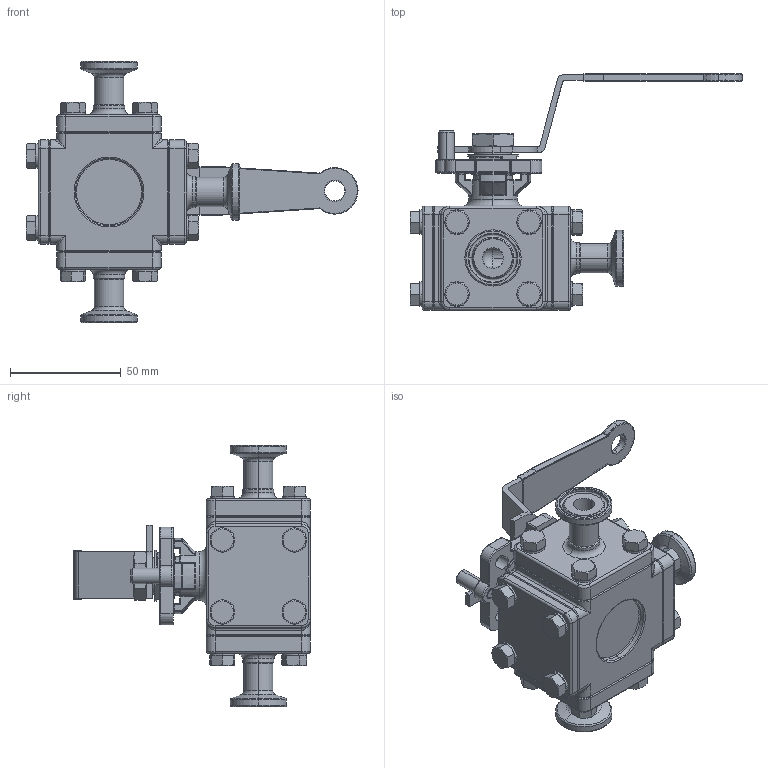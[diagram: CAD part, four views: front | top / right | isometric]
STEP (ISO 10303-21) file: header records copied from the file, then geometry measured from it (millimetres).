
FILE_DESCRIPTION (( 'STEP AP203' ), '1' );
FILE_NAME ('EG93CCC-6.5.STEP', '2019-07-02T02:24:34', ( '' ), ( '' ), 'SwSTEP 2.0', 'SolidWorks 2014', '' );
FILE_SCHEMA (( 'CONFIG_CONTROL_DESIGN' ));
Length unit declared in the file: millimetre
Products named in the file (24): 1.3WAY-BODY0.5; 14.HANDLE0.5-0.75; EG93CCC-6.5; 18.THINNER NUT0.5-.0.75; 17.LOCKING TAB0.5-0.75; 3.3WAY-BALL-0.5-L; 11.STOP PIN0.5-1.0; 19.3WAY-CAP0.5; 20.SEAT BACK0.5; 22.SEAT-R-0.5; 12.3WAY-NUT0.5-.0.75; 9.RING0.5-0.75; 21.PLAIN WASHER0.5-0.75; 10.BEVEL WASHER0.5-0.75; 8.STEM PACKING0.5; 16.BOLT0.5; 2.3WAY-CAP-C-0.5; 7.O-RING0.5-1.0; 6.THRUST WASHER0.5; 13.STEM0.5; 5.GASKET0.5; 15.SPRING WASHER0.5-0.75; 4.SEAT1-0.5; 22.SEAT-L-0.5
Assembly tree (58 placements, depth 2):
  EG93CCC-6.5
    1.3WAY-BODY0.5
    3.3WAY-BALL-0.5-L
    13.STEM0.5
    6.THRUST WASHER0.5
    7.O-RING0.5-1.0
    9.RING0.5-0.75
    8.STEM PACKING0.5
    10.BEVEL WASHER0.5-0.75  x2
    17.LOCKING TAB0.5-0.75
    18.THINNER NUT0.5-.0.75
    21.PLAIN WASHER0.5-0.75
    20.SEAT BACK0.5
    22.SEAT-L-0.5
    22.SEAT-R-0.5
    4.SEAT1-0.5  x2
    5.GASKET0.5  x2
    2.3WAY-CAP-C-0.5  x3
    19.3WAY-CAP0.5
    16.BOLT0.5  x16
    15.SPRING WASHER0.5-0.75  x16
    14.HANDLE0.5-0.75
    11.STOP PIN0.5-1.0
    12.3WAY-NUT0.5-.0.75
Bounding box: 150 x 106.87 x 118 mm (x, y, z)
Volume: 230895.7 mm3; surface area: 111750.4 mm2
Topology: 59 solids, 59 shells, 1545 faces, 3460 edges, 2030 vertices
Faces by surface type: cylinder 573, plane 400, cone 238, torus 229, sphere 56, bspline 49
Entity records: 34385 total; most frequent: CARTESIAN_POINT 8010, DIRECTION 5281, ORIENTED_EDGE 4510, EDGE_CURVE 2255, AXIS2_PLACEMENT_3D 2241, VERTEX_POINT 1332, CIRCLE 1233, EDGE_LOOP 1105
